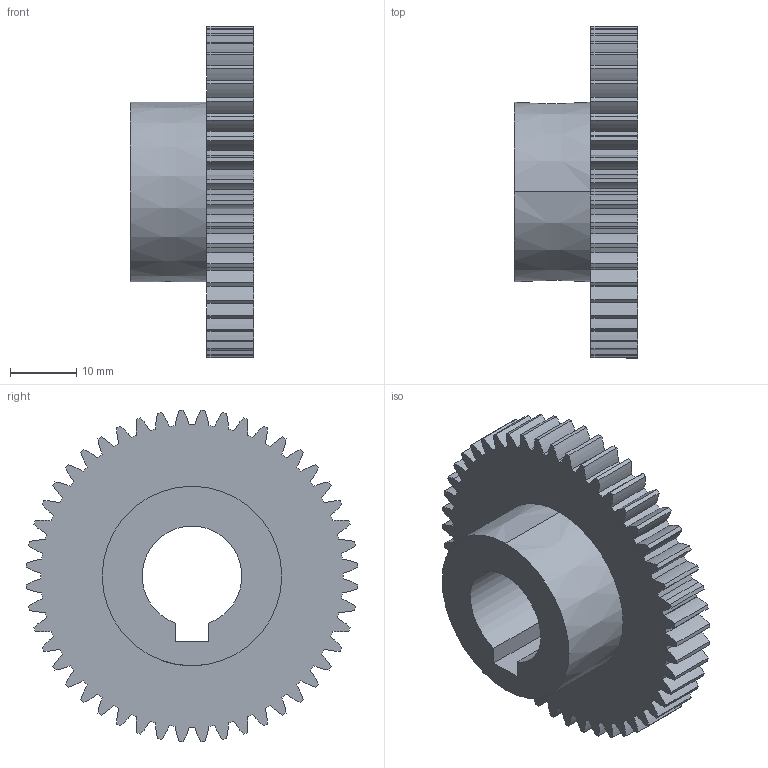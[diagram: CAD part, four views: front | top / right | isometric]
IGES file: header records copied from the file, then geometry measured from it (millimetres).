
Start section: 3D InterOp IGES (v. 2020 1.0.1), Spatial Corp. Copyright (c) 1999-2017.
Global section: file name: p10_w7_t48_bk.igs; native system: Spatial Corp.; preprocessor: 3D InterOp ACIS/IGES; author: TraceParts; organization: TraceParts S.A.; date: 20220624.033403; units: millimetre
Bounding box: 18.5 x 49.93 x 49.93 mm (x, y, z)
Surface area: 7262.8 mm2 (no closed solid volume)
Topology: 0 solids, 0 shells, 222 faces, 1308 edges, 1308 vertices
Faces by surface type: revolution 208, extrusion 14
